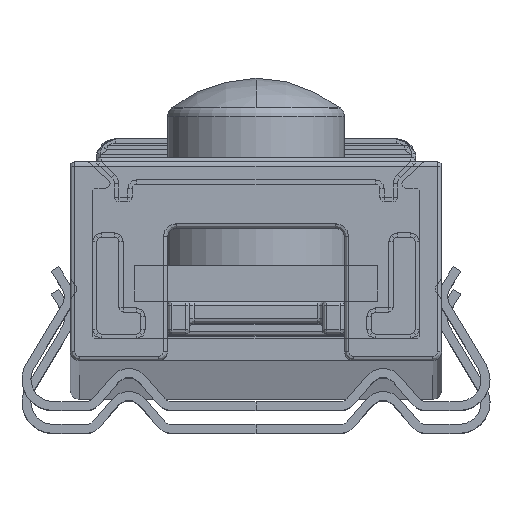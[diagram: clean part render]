
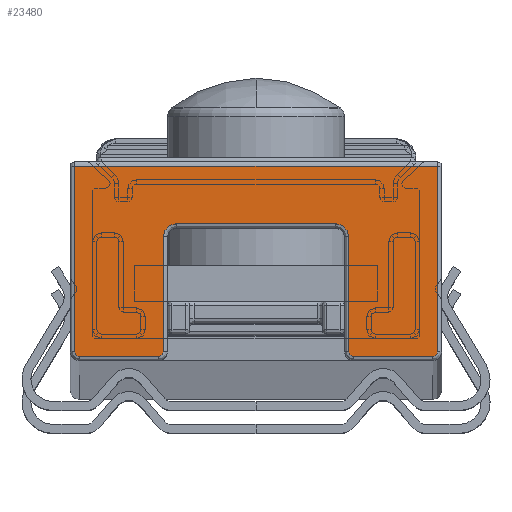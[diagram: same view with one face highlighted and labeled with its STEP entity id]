
A CAD part, top view. The second image highlights one B-rep face of the part: STEP entity #23480.
In plain terms, the highlighted planar face has unit normal (0, 0, 1).
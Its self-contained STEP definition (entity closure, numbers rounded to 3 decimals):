
#69 = EDGE_CURVE ( 'NONE', #24887, #11196, #7702, .T. ) ;
#512 = CARTESIAN_POINT ( 'NONE',  ( 3.6, 6.2, 1. ) ) ;
#606 = DIRECTION ( 'NONE',  ( 0., -1., 0. ) ) ;
#1263 = CARTESIAN_POINT ( 'NONE',  ( 4.4, 0.4, 1. ) ) ;
#1608 = VECTOR ( 'NONE', #31293, 1000. ) ;
#1803 = DIRECTION ( 'NONE',  ( 0., -1., 0. ) ) ;
#1832 = DIRECTION ( 'NONE',  ( 0., 0., -1. ) ) ;
#2158 = ORIENTED_EDGE ( 'NONE', *, *, #6081, .T. ) ;
#2289 = AXIS2_PLACEMENT_3D ( 'NONE', #24308, #5199, #13276 ) ;
#2798 = VECTOR ( 'NONE', #4957, 1000. ) ;
#3280 = CARTESIAN_POINT ( 'NONE',  ( 8.2, 8.8, 1. ) ) ;
#3709 = DIRECTION ( 'NONE',  ( 0., 0., 1. ) ) ;
#3843 = VECTOR ( 'NONE', #13877, 1000. ) ;
#4007 = CARTESIAN_POINT ( 'NONE',  ( -4.4, 0.2, 1. ) ) ;
#4033 = EDGE_CURVE ( 'NONE', #20966, #17854, #30224, .T. ) ;
#4039 = DIRECTION ( 'NONE',  ( 1., 0., 0. ) ) ;
#4494 = ORIENTED_EDGE ( 'NONE', *, *, #31480, .T. ) ;
#4547 = ORIENTED_EDGE ( 'NONE', *, *, #9006, .T. ) ;
#4736 = AXIS2_PLACEMENT_3D ( 'NONE', #20409, #1832, #22875 ) ;
#4957 = DIRECTION ( 'NONE',  ( 1., 0., 0. ) ) ;
#5059 = CARTESIAN_POINT ( 'NONE',  ( 3.6, 5.6, 1. ) ) ;
#5199 = DIRECTION ( 'NONE',  ( 0., 0., 1. ) ) ;
#5492 = CARTESIAN_POINT ( 'NONE',  ( 8.2, 9., 1. ) ) ;
#5990 = EDGE_CURVE ( 'NONE', #7246, #20966, #32302, .T. ) ;
#6026 = CARTESIAN_POINT ( 'NONE',  ( -4.2, 5.6, 1. ) ) ;
#6081 = EDGE_CURVE ( 'NONE', #22212, #14291, #24644, .T. ) ;
#6354 = CARTESIAN_POINT ( 'NONE',  ( -4.2, 5.6, 1. ) ) ;
#6648 = LINE ( 'NONE', #11746, #22228 ) ;
#6805 = CARTESIAN_POINT ( 'NONE',  ( -8.2, 0.4, 1. ) ) ;
#6868 = LINE ( 'NONE', #28429, #12271 ) ;
#7241 = ORIENTED_EDGE ( 'NONE', *, *, #21415, .T. ) ;
#7246 = VERTEX_POINT ( 'NONE', #3280 ) ;
#7521 = CARTESIAN_POINT ( 'NONE',  ( -4.4, 0.4, 1. ) ) ;
#7540 = ORIENTED_EDGE ( 'NONE', *, *, #69, .T. ) ;
#7631 = VERTEX_POINT ( 'NONE', #6026 ) ;
#7680 = ORIENTED_EDGE ( 'NONE', *, *, #13519, .T. ) ;
#7702 = CIRCLE ( 'NONE', #18942, 0.6 ) ;
#7753 = ORIENTED_EDGE ( 'NONE', *, *, #28600, .T. ) ;
#8221 = DIRECTION ( 'NONE',  ( 1., 0., 0. ) ) ;
#8245 = DIRECTION ( 'NONE',  ( 0., 0., 1. ) ) ;
#8361 = VERTEX_POINT ( 'NONE', #21021 ) ;
#8788 = CARTESIAN_POINT ( 'NONE',  ( 4.4, 0.2, 1. ) ) ;
#9006 = EDGE_CURVE ( 'NONE', #7631, #20677, #14839, .T. ) ;
#9247 = EDGE_CURVE ( 'NONE', #14291, #7246, #31808, .T. ) ;
#9828 = EDGE_CURVE ( 'NONE', #32720, #22212, #6648, .T. ) ;
#9951 = DIRECTION ( 'NONE',  ( 1., 0., 0. ) ) ;
#10912 = LINE ( 'NONE', #24075, #2798 ) ;
#10956 = CARTESIAN_POINT ( 'NONE',  ( -8., 0.2, 1. ) ) ;
#10976 = AXIS2_PLACEMENT_3D ( 'NONE', #1263, #3709, #13892 ) ;
#11196 = VERTEX_POINT ( 'NONE', #33368 ) ;
#11232 = CARTESIAN_POINT ( 'NONE',  ( 8., 0.4, 1. ) ) ;
#11746 = CARTESIAN_POINT ( 'NONE',  ( 8., 0.2, 1. ) ) ;
#12021 = VECTOR ( 'NONE', #23740, 1000. ) ;
#12271 = VECTOR ( 'NONE', #1803, 1000. ) ;
#12538 = CARTESIAN_POINT ( 'NONE',  ( 3.6, 6.2, 1. ) ) ;
#12875 = EDGE_CURVE ( 'NONE', #17854, #18483, #18246, .T. ) ;
#13276 = DIRECTION ( 'NONE',  ( 1., 0., 0. ) ) ;
#13519 = EDGE_CURVE ( 'NONE', #23706, #7631, #33030, .T. ) ;
#13877 = DIRECTION ( 'NONE',  ( -1., 0., 0. ) ) ;
#13892 = DIRECTION ( 'NONE',  ( 1., 0., 0. ) ) ;
#14291 = VERTEX_POINT ( 'NONE', #27143 ) ;
#14839 = CIRCLE ( 'NONE', #4736, 0.6 ) ;
#15465 = EDGE_LOOP ( 'NONE', ( #29108, #31100, #4494, #28626, #7680, #4547, #7241, #7540, #28194, #7753, #20139, #2158, #30418, #31821 ) ) ;
#15948 = DIRECTION ( 'NONE',  ( 1., 0., 0. ) ) ;
#16021 = AXIS2_PLACEMENT_3D ( 'NONE', #7521, #28929, #8221 ) ;
#16333 = DIRECTION ( 'NONE',  ( 1., 0., 0. ) ) ;
#17126 = CIRCLE ( 'NONE', #10976, 0.2 ) ;
#17854 = VERTEX_POINT ( 'NONE', #6805 ) ;
#18246 = CIRCLE ( 'NONE', #33948, 0.2 ) ;
#18483 = VERTEX_POINT ( 'NONE', #10956 ) ;
#18924 = CARTESIAN_POINT ( 'NONE',  ( -3.6, 6.2, 1. ) ) ;
#18942 = AXIS2_PLACEMENT_3D ( 'NONE', #5059, #21179, #9951 ) ;
#20085 = AXIS2_PLACEMENT_3D ( 'NONE', #11232, #8245, #16333 ) ;
#20139 = ORIENTED_EDGE ( 'NONE', *, *, #9828, .T. ) ;
#20290 = FACE_OUTER_BOUND ( 'NONE', #15465, .T. ) ;
#20409 = CARTESIAN_POINT ( 'NONE',  ( -3.6, 5.6, 1. ) ) ;
#20677 = VERTEX_POINT ( 'NONE', #18924 ) ;
#20966 = VERTEX_POINT ( 'NONE', #33808 ) ;
#21021 = CARTESIAN_POINT ( 'NONE',  ( 4.2, 0.4, 1. ) ) ;
#21179 = DIRECTION ( 'NONE',  ( 0., 0., -1. ) ) ;
#21415 = EDGE_CURVE ( 'NONE', #20677, #24887, #29001, .T. ) ;
#21753 = EDGE_CURVE ( 'NONE', #11196, #8361, #6868, .T. ) ;
#21993 = CARTESIAN_POINT ( 'NONE',  ( -8.2, 0.4, 1. ) ) ;
#22005 = VERTEX_POINT ( 'NONE', #4007 ) ;
#22212 = VERTEX_POINT ( 'NONE', #26587 ) ;
#22228 = VECTOR ( 'NONE', #4039, 1000. ) ;
#22875 = DIRECTION ( 'NONE',  ( 1., 0., 0. ) ) ;
#23316 = DIRECTION ( 'NONE',  ( 0., 0., 1. ) ) ;
#23480 = ADVANCED_FACE ( 'NONE', ( #20290 ), #30993, .T. ) ;
#23706 = VERTEX_POINT ( 'NONE', #24483 ) ;
#23740 = DIRECTION ( 'NONE',  ( 0., 1., 0. ) ) ;
#24075 = CARTESIAN_POINT ( 'NONE',  ( -4.4, 0.2, 1. ) ) ;
#24308 = CARTESIAN_POINT ( 'NONE',  ( 0., 0., 1. ) ) ;
#24483 = CARTESIAN_POINT ( 'NONE',  ( -4.2, 0.4, 1. ) ) ;
#24644 = CIRCLE ( 'NONE', #20085, 0.2 ) ;
#24887 = VERTEX_POINT ( 'NONE', #512 ) ;
#25935 = CARTESIAN_POINT ( 'NONE',  ( -8., 0.4, 1. ) ) ;
#26587 = CARTESIAN_POINT ( 'NONE',  ( 8., 0.2, 1. ) ) ;
#27026 = VECTOR ( 'NONE', #606, 1000. ) ;
#27143 = CARTESIAN_POINT ( 'NONE',  ( 8.2, 0.4, 1. ) ) ;
#28194 = ORIENTED_EDGE ( 'NONE', *, *, #21753, .T. ) ;
#28429 = CARTESIAN_POINT ( 'NONE',  ( 4.2, 0.4, 1. ) ) ;
#28600 = EDGE_CURVE ( 'NONE', #8361, #32720, #17126, .T. ) ;
#28626 = ORIENTED_EDGE ( 'NONE', *, *, #28894, .T. ) ;
#28894 = EDGE_CURVE ( 'NONE', #22005, #23706, #29452, .T. ) ;
#28929 = DIRECTION ( 'NONE',  ( 0., 0., 1. ) ) ;
#29001 = LINE ( 'NONE', #12538, #1608 ) ;
#29108 = ORIENTED_EDGE ( 'NONE', *, *, #4033, .T. ) ;
#29452 = CIRCLE ( 'NONE', #16021, 0.2 ) ;
#29823 = CARTESIAN_POINT ( 'NONE',  ( -8.4, 8.8, 1. ) ) ;
#30027 = VECTOR ( 'NONE', #32045, 1000. ) ;
#30224 = LINE ( 'NONE', #21993, #27026 ) ;
#30418 = ORIENTED_EDGE ( 'NONE', *, *, #9247, .T. ) ;
#30993 = PLANE ( 'NONE',  #2289 ) ;
#31100 = ORIENTED_EDGE ( 'NONE', *, *, #12875, .T. ) ;
#31293 = DIRECTION ( 'NONE',  ( 1., 0., 0. ) ) ;
#31480 = EDGE_CURVE ( 'NONE', #18483, #22005, #10912, .T. ) ;
#31808 = LINE ( 'NONE', #5492, #12021 ) ;
#31821 = ORIENTED_EDGE ( 'NONE', *, *, #5990, .T. ) ;
#32045 = DIRECTION ( 'NONE',  ( 0., 1., 0. ) ) ;
#32302 = LINE ( 'NONE', #29823, #3843 ) ;
#32720 = VERTEX_POINT ( 'NONE', #8788 ) ;
#33030 = LINE ( 'NONE', #6354, #30027 ) ;
#33368 = CARTESIAN_POINT ( 'NONE',  ( 4.2, 5.6, 1. ) ) ;
#33808 = CARTESIAN_POINT ( 'NONE',  ( -8.2, 8.8, 1. ) ) ;
#33948 = AXIS2_PLACEMENT_3D ( 'NONE', #25935, #23316, #15948 ) ;
